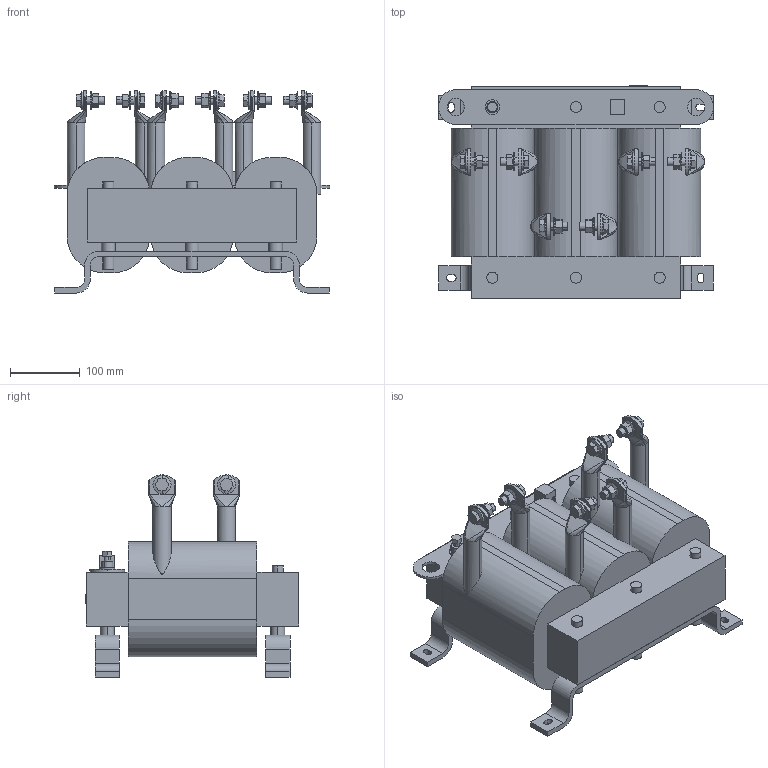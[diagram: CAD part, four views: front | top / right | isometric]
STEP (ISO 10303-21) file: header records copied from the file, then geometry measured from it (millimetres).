
FILE_DESCRIPTION (( 'STEP AP214' ), '1' );
FILE_NAME ('00Z1BX0-0030.STEP', '2024-05-15T08:32:10', ( '' ), ( '' ), 'SwSTEP 2.0', 'SolidWorks 2022', '' );
FILE_SCHEMA (( 'AUTOMOTIVE_DESIGN' ));
Length unit declared in the file: millimetre
Products named in the file (1): 00Z1BX0-0030
Bounding box: 395 x 306.32 x 289.96 mm (x, y, z)
Volume: 13079201.4 mm3; surface area: 635946.4 mm2
Topology: 1 solids, 2 shells, 597 faces, 1496 edges, 960 vertices
Faces by surface type: plane 290, cylinder 208, bspline 61, cone 26, torus 12
Entity records: 22684 total; most frequent: CARTESIAN_POINT 8608, ORIENTED_EDGE 2992, DIRECTION 2621, EDGE_CURVE 1496, VERTEX_POINT 960, AXIS2_PLACEMENT_3D 935, VECTOR 751, LINE 751
